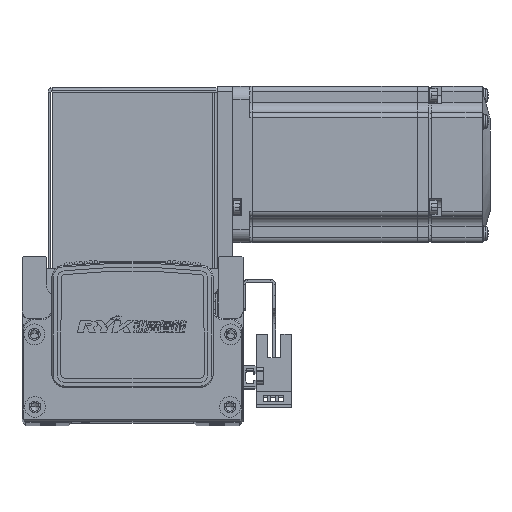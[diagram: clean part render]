
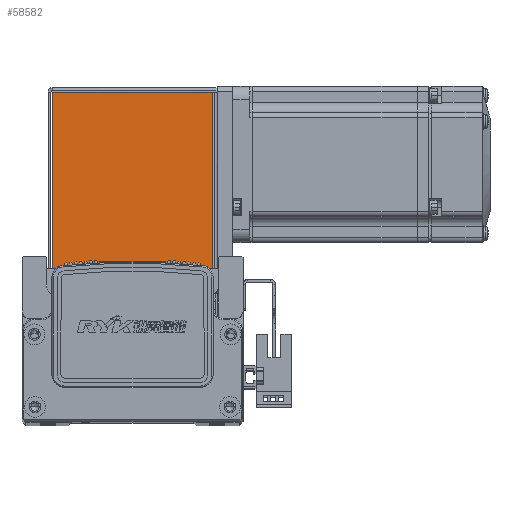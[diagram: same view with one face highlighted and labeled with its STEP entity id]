
A CAD part, top view. The second image highlights one B-rep face of the part: STEP entity #58582.
In plain terms, the highlighted planar face has unit normal (0, 0, 1) as drawn and (0, 0, -1) by its records, which use the part's own axes.
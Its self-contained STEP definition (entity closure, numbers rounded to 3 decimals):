
#22101 = VERTEX_POINT ( 'NONE', #52270 ) ;
#22107 = VERTEX_POINT ( 'NONE', #52217 ) ;
#22129 = VERTEX_POINT ( 'NONE', #52283 ) ;
#22139 = VERTEX_POINT ( 'NONE', #52312 ) ;
#31205 = CARTESIAN_POINT ( 'NONE',  ( -30.793, 0., -35. ) ) ;
#31209 = DIRECTION ( 'NONE',  ( 1., 0., 0. ) ) ;
#31218 = CARTESIAN_POINT ( 'NONE',  ( 0., 68.5, -35. ) ) ;
#31247 = DIRECTION ( 'NONE',  ( 0., 1., 0. ) ) ;
#31422 = CARTESIAN_POINT ( 'NONE',  ( 30.763, 68.5, -35. ) ) ;
#31424 = DIRECTION ( 'NONE',  ( 0., -1., 0. ) ) ;
#31507 = CARTESIAN_POINT ( 'NONE',  ( 32.5, 0.737, -35. ) ) ;
#31509 = DIRECTION ( 'NONE',  ( 1., 0., 0. ) ) ;
#33163 = AXIS2_PLACEMENT_3D ( 'NONE', #43116, #43109, #43150 ) ;
#33637 = FACE_OUTER_BOUND ( 'NONE', #56474, .T. ) ;
#40236 = LINE ( 'NONE', #31218, #40292 ) ;
#40240 = LINE ( 'NONE', #31205, #40256 ) ;
#40256 = VECTOR ( 'NONE', #31247, 1000. ) ;
#40292 = VECTOR ( 'NONE', #31209, 1000. ) ;
#40313 = LINE ( 'NONE', #31422, #40347 ) ;
#40315 = LINE ( 'NONE', #31507, #40362 ) ;
#40347 = VECTOR ( 'NONE', #31424, 1000. ) ;
#40362 = VECTOR ( 'NONE', #31509, 1000. ) ;
#43109 = DIRECTION ( 'NONE',  ( 0., 0., 1. ) ) ;
#43116 = CARTESIAN_POINT ( 'NONE',  ( 0., 0., -35. ) ) ;
#43127 = PLANE ( 'NONE',  #33163 ) ;
#43150 = DIRECTION ( 'NONE',  ( 0., -1., 0. ) ) ;
#46324 = ORIENTED_EDGE ( 'NONE', *, *, #48872, .T. ) ;
#46479 = ORIENTED_EDGE ( 'NONE', *, *, #48870, .T. ) ;
#46505 = ORIENTED_EDGE ( 'NONE', *, *, #48903, .T. ) ;
#46585 = ORIENTED_EDGE ( 'NONE', *, *, #48922, .F. ) ;
#48870 = EDGE_CURVE ( 'NONE', #22107, #22129, #40236, .T. ) ;
#48872 = EDGE_CURVE ( 'NONE', #22101, #22107, #40240, .T. ) ;
#48903 = EDGE_CURVE ( 'NONE', #22129, #22139, #40313, .T. ) ;
#48922 = EDGE_CURVE ( 'NONE', #22101, #22139, #40315, .T. ) ;
#52217 = CARTESIAN_POINT ( 'NONE',  ( -30.793, 68.5, -35. ) ) ;
#52270 = CARTESIAN_POINT ( 'NONE',  ( -30.793, 0.737, -35. ) ) ;
#52283 = CARTESIAN_POINT ( 'NONE',  ( 30.763, 68.5, -35. ) ) ;
#52312 = CARTESIAN_POINT ( 'NONE',  ( 30.763, 0.737, -35. ) ) ;
#56474 = EDGE_LOOP ( 'NONE', ( #46505, #46585, #46324, #46479 ) ) ;
#58582 = ADVANCED_FACE ( 'NONE', ( #33637 ), #43127, .F. ) ;
